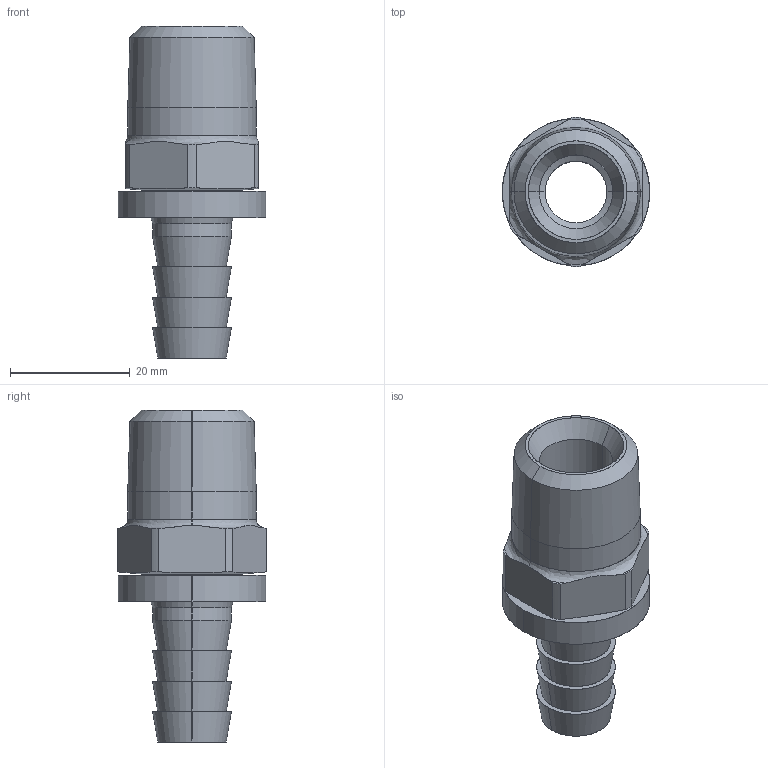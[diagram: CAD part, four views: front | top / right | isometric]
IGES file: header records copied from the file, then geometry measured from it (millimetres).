
Start section: SolidWorks IGES file using analytic representation for surfaces
Global section: file name: C:\Users\365admin\AppData\Local\Temp\InFlowXlateWorking\MB50-8-PL.igs; native system: SolidWorks 2018; preprocessor: SolidWorks 2018; author: 365admin; date: 200819.021715; units: inch
Bounding box: 24.6 x 24.89 x 55.42 mm (x, y, z)
Surface area: 6674.1 mm2 (no closed solid volume)
Topology: 0 solids, 0 shells, 68 faces, 976 edges, 976 vertices
Faces by surface type: revolution 48, bspline 20
